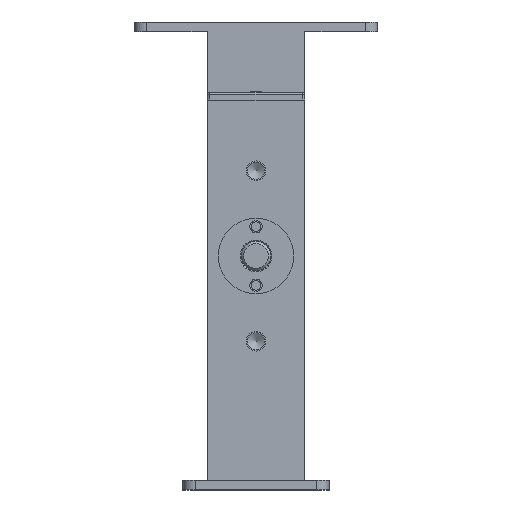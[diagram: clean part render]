
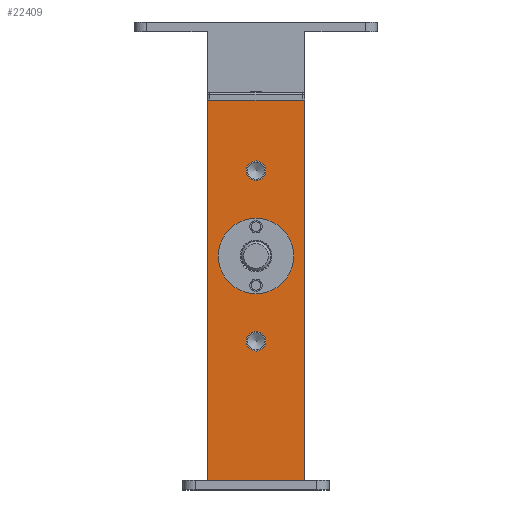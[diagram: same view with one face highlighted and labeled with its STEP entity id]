
A CAD part, front view. The second image highlights one B-rep face of the part: STEP entity #22409.
In plain terms, the highlighted planar face has unit normal (0, -1, 0).
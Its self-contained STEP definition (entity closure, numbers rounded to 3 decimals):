
#20707=CARTESIAN_POINT('',(388.024,-249.372,160.0));
#20708=VERTEX_POINT('',#20707);
#20732=CARTESIAN_POINT('',(350.024,-249.372,160.0));
#20733=VERTEX_POINT('',#20732);
#20740=CARTESIAN_POINT('',(388.024,-249.372,160.));
#20741=DIRECTION('',(-1.0,0.0,0.0));
#20742=VECTOR('',#20741,38.0);
#20743=LINE('',#20740,#20742);
#20744=EDGE_CURVE('',#20708,#20733,#20743,.T.);
#20774=CARTESIAN_POINT('',(349.024,-249.372,160.));
#20775=VERTEX_POINT('',#20774);
#20782=CARTESIAN_POINT('',(350.024,-249.372,160.));
#20783=DIRECTION('',(-1.0,0.0,0.0));
#20784=VECTOR('',#20783,1.0);
#20785=LINE('',#20782,#20784);
#20786=EDGE_CURVE('',#20733,#20775,#20785,.T.);
#20843=CARTESIAN_POINT('',(389.024,-249.372,160.));
#20844=VERTEX_POINT('',#20843);
#20845=CARTESIAN_POINT('',(389.024,-249.372,160.));
#20846=DIRECTION('',(-1.0,0.0,0.0));
#20847=VECTOR('',#20846,1.0);
#20848=LINE('',#20845,#20847);
#20849=EDGE_CURVE('',#20844,#20708,#20848,.T.);
#21920=CARTESIAN_POINT('',(369.024,-249.372,111.5));
#21921=VERTEX_POINT('',#21920);
#21922=CARTESIAN_POINT('',(369.024,-249.372,96.));
#21923=DIRECTION('',(0.0,1.0,0.0));
#21924=DIRECTION('',(0.0,0.0,1.0));
#21925=AXIS2_PLACEMENT_3D('',#21922,#21923,#21924);
#21926=CIRCLE('',#21925,15.5);
#21927=EDGE_CURVE('',#21921,#21921,#21926,.T.);
#22352=CARTESIAN_POINT('',(389.024,-249.372,4.));
#22353=DIRECTION('',(0.0,-1.0,0.0));
#22354=DIRECTION('',(0.0,0.0,1.0));
#22355=AXIS2_PLACEMENT_3D('',#22352,#22353,#22354);
#22356=PLANE('',#22355);
#22357=ORIENTED_EDGE('',*,*,#20849,.T.);
#22358=ORIENTED_EDGE('',*,*,#20744,.T.);
#22359=ORIENTED_EDGE('',*,*,#20786,.T.);
#22360=CARTESIAN_POINT('',(349.024,-249.372,4.));
#22361=VERTEX_POINT('',#22360);
#22362=CARTESIAN_POINT('',(349.024,-249.372,4.));
#22363=DIRECTION('',(0.0,0.0,1.0));
#22364=VECTOR('',#22363,156.0);
#22365=LINE('',#22362,#22364);
#22366=EDGE_CURVE('',#22361,#20775,#22365,.T.);
#22367=ORIENTED_EDGE('',*,*,#22366,.F.);
#22368=CARTESIAN_POINT('',(389.024,-249.372,4.));
#22369=VERTEX_POINT('',#22368);
#22370=CARTESIAN_POINT('',(389.024,-249.372,4.));
#22371=DIRECTION('',(-1.0,0.0,0.0));
#22372=VECTOR('',#22371,40.0);
#22373=LINE('',#22370,#22372);
#22374=EDGE_CURVE('',#22369,#22361,#22373,.T.);
#22375=ORIENTED_EDGE('',*,*,#22374,.F.);
#22376=CARTESIAN_POINT('',(389.024,-249.372,4.));
#22377=DIRECTION('',(0.0,0.0,1.0));
#22378=VECTOR('',#22377,156.0);
#22379=LINE('',#22376,#22378);
#22380=EDGE_CURVE('',#22369,#20844,#22379,.T.);
#22381=ORIENTED_EDGE('',*,*,#22380,.T.);
#22382=EDGE_LOOP('',(#22357,#22358,#22359,#22367,#22375,#22381));
#22383=FACE_OUTER_BOUND('',#22382,.T.);
#22384=ORIENTED_EDGE('',*,*,#21927,.T.);
#22385=EDGE_LOOP('',(#22384));
#22386=FACE_BOUND('',#22385,.T.);
#22387=CARTESIAN_POINT('',(365.024,-249.372,131.));
#22388=VERTEX_POINT('',#22387);
#22389=CARTESIAN_POINT('',(369.024,-249.372,131.));
#22390=DIRECTION('',(0.0,1.0,0.0));
#22391=DIRECTION('',(-1.0,0.0,0.0));
#22392=AXIS2_PLACEMENT_3D('',#22389,#22390,#22391);
#22393=CIRCLE('',#22392,4.0);
#22394=EDGE_CURVE('',#22388,#22388,#22393,.T.);
#22395=ORIENTED_EDGE('',*,*,#22394,.T.);
#22396=EDGE_LOOP('',(#22395));
#22397=FACE_BOUND('',#22396,.T.);
#22398=CARTESIAN_POINT('',(365.024,-249.372,61.));
#22399=VERTEX_POINT('',#22398);
#22400=CARTESIAN_POINT('',(369.024,-249.372,61.));
#22401=DIRECTION('',(0.0,1.0,0.0));
#22402=DIRECTION('',(-1.0,0.0,0.0));
#22403=AXIS2_PLACEMENT_3D('',#22400,#22401,#22402);
#22404=CIRCLE('',#22403,4.0);
#22405=EDGE_CURVE('',#22399,#22399,#22404,.T.);
#22406=ORIENTED_EDGE('',*,*,#22405,.T.);
#22407=EDGE_LOOP('',(#22406));
#22408=FACE_BOUND('',#22407,.T.);
#22409=ADVANCED_FACE('',(#22383,#22386,#22397,#22408),#22356,.T.);
